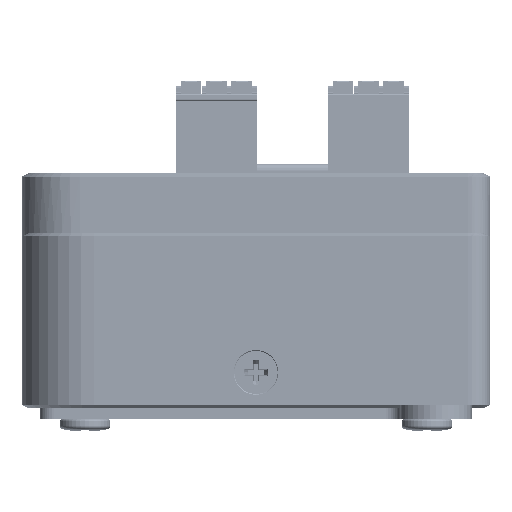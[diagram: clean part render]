
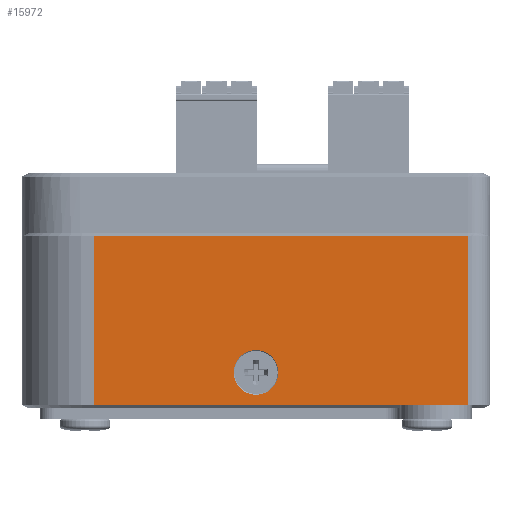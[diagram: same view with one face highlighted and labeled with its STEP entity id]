
A CAD part, left-side view. The second image highlights one B-rep face of the part: STEP entity #15972.
In plain terms, the highlighted planar face has unit normal (-1, 0, 0).
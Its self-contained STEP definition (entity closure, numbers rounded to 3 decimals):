
#5248=DIRECTION('',(0.,-1.,0.));
#5249=VECTOR('',#5248,52.);
#5250=CARTESIAN_POINT('',(-60.,21.5,
-8.3));
#5251=LINE('',#5250,#5249);
#5255=DIRECTION('',(0.,1.,0.));
#5256=VECTOR('',#5255,52.);
#5257=CARTESIAN_POINT('',(-60.,-30.5,
-31.7));
#5258=LINE('',#5257,#5256);
#5262=CARTESIAN_POINT('',(-60.,-1.,-27.2));
#5263=DIRECTION('',(-1.,0.,0.));
#5264=DIRECTION('',(0.,-1.,0.));
#5265=AXIS2_PLACEMENT_3D('',#5262,#5263,#5264);
#5270=CARTESIAN_POINT('',(-60.,-1.,-27.2));
#5271=DIRECTION('',(-1.,0.,0.));
#5272=DIRECTION('',(0.,0.,1.));
#5273=AXIS2_PLACEMENT_3D('',#5270,#5271,#5272);
#5278=CARTESIAN_POINT('',(-60.,-1.,-27.2));
#5279=DIRECTION('',(-1.,0.,0.));
#5280=DIRECTION('',(0.,1.,0.));
#5281=AXIS2_PLACEMENT_3D('',#5278,#5279,#5280);
#5286=CARTESIAN_POINT('',(-60.,-1.,-27.2));
#5287=DIRECTION('',(-1.,0.,0.));
#5288=DIRECTION('',(0.,0.,-1.));
#5289=AXIS2_PLACEMENT_3D('',#5286,#5287,#5288);
#5538=DIRECTION('',(0.,0.,1.));
#5539=VECTOR('',#5538,23.4);
#5540=CARTESIAN_POINT('',(-60.,-30.5,
-31.7));
#5541=LINE('',#5540,#5539);
#5596=DIRECTION('',(0.,0.,-1.));
#5597=VECTOR('',#5596,23.4);
#5598=CARTESIAN_POINT('',(-60.,21.5,
-8.3));
#5599=LINE('',#5598,#5597);
#8715=CARTESIAN_POINT('',(-60.,-1.001,-30.3));
#8716=VERTEX_POINT('',#8715);
#8717=CARTESIAN_POINT('',(-60.,2.1,-27.201));
#8718=VERTEX_POINT('',#8717);
#8719=CARTESIAN_POINT('',(-60.,-1.,-24.1));
#8720=VERTEX_POINT('',#8719);
#8721=CARTESIAN_POINT('',(-60.,-4.1,-27.199));
#8722=VERTEX_POINT('',#8721);
#8723=CARTESIAN_POINT('',(-60.,21.5,
-8.3));
#8724=CARTESIAN_POINT('',(-60.,-30.5,
-8.3));
#8725=VERTEX_POINT('',#8723);
#8726=VERTEX_POINT('',#8724);
#8727=CARTESIAN_POINT('',(-60.,-30.5,
-31.7));
#8728=VERTEX_POINT('',#8727);
#8729=CARTESIAN_POINT('',(-60.,21.5,
-31.7));
#8730=VERTEX_POINT('',#8729);
#15951=CARTESIAN_POINT('',(-60.,31.5,-32.2));
#15952=DIRECTION('',(-1.,0.,0.));
#15953=DIRECTION('',(0.,0.,-1.));
#15954=AXIS2_PLACEMENT_3D('',#15951,#15952,#15953);
#15955=PLANE('',#15954);
#15957=ORIENTED_EDGE('',*,*,#15956,.T.);
#15959=ORIENTED_EDGE('',*,*,#15958,.F.);
#15961=ORIENTED_EDGE('',*,*,#15960,.T.);
#15963=ORIENTED_EDGE('',*,*,#15962,.F.);
#15964=EDGE_LOOP('',(#15957,#15959,#15961,#15963));
#15965=FACE_OUTER_BOUND('',#15964,.F.);
#15966=ORIENTED_EDGE('',*,*,#15897,.T.);
#15967=ORIENTED_EDGE('',*,*,#15895,.T.);
#15968=ORIENTED_EDGE('',*,*,#15893,.T.);
#15969=ORIENTED_EDGE('',*,*,#15919,.T.);
#15970=EDGE_LOOP('',(#15966,#15967,#15968,#15969));
#15971=FACE_BOUND('',#15970,.F.);
#5266=CIRCLE('',#5265,3.1);
#5274=CIRCLE('',#5273,3.1);
#5282=CIRCLE('',#5281,3.1);
#5290=CIRCLE('',#5289,3.1);
#15893=EDGE_CURVE('',#8718,#8716,#5282,.T.);
#15895=EDGE_CURVE('',#8720,#8718,#5274,.T.);
#15897=EDGE_CURVE('',#8722,#8720,#5266,.T.);
#15919=EDGE_CURVE('',#8716,#8722,#5290,.T.);
#15956=EDGE_CURVE('',#8725,#8726,#5251,.T.);
#15958=EDGE_CURVE('',#8728,#8726,#5541,.T.);
#15960=EDGE_CURVE('',#8728,#8730,#5258,.T.);
#15962=EDGE_CURVE('',#8725,#8730,#5599,.T.);
#15972=ADVANCED_FACE('',(#15965,#15971),#15955,.T.);
